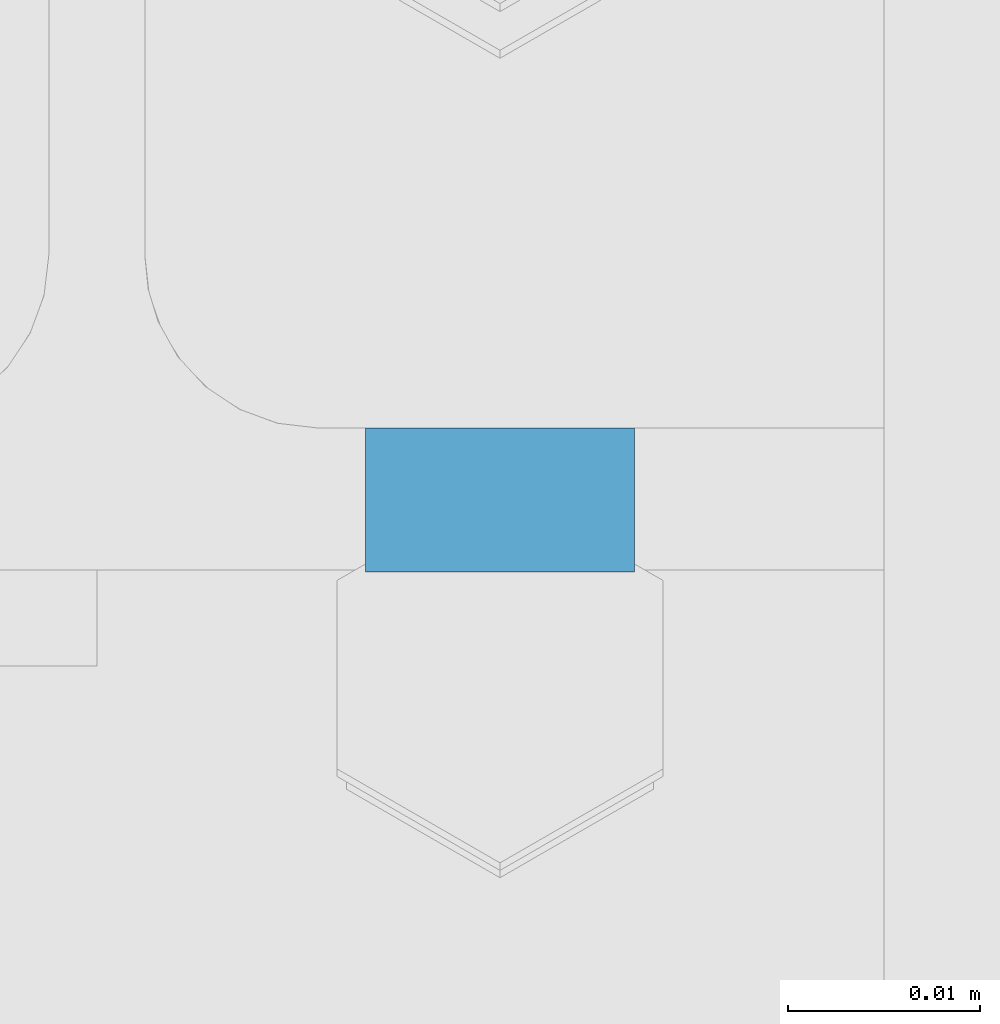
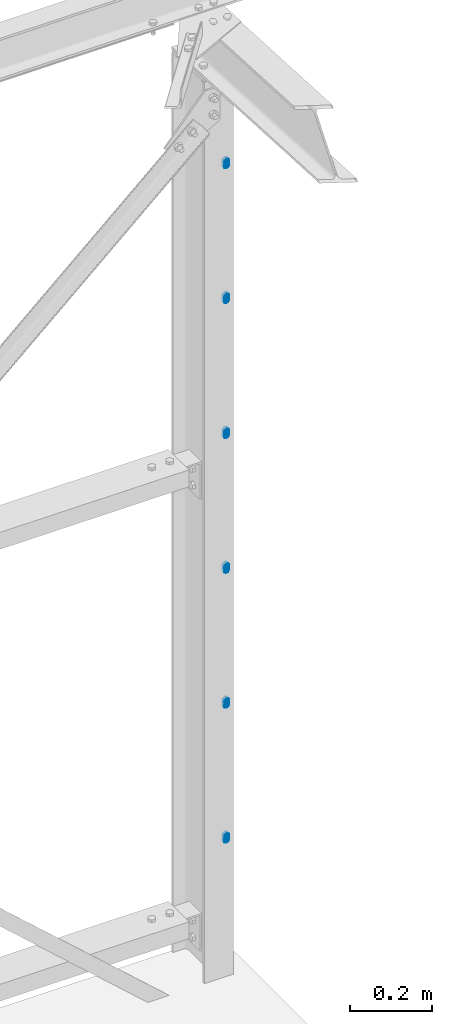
# One storey, part 140 of 362: 1 mechanical fastener.
"""IFC2X3 building model written with IfcOpenShell, lengths in millimetres."""

from ifc_helpers import new_model, si_unit, frame, frame_2d, origin_with_axes, place, context, subcontext, project, spatial, polyline, circle_curve, parameter, trimmed, segment, composite_curve, outline, extrude, source, transform, mapped, material, type_object, element, save


model = new_model("IFC2X3")

# Units and contexts
model_context = context("Model", 3, precision=1e-05, world=origin_with_axes())
body_context = subcontext(model_context, "Body", "Model", "MODEL_VIEW")
ifc_project = project(units=[si_unit("LENGTHUNIT", "METRE", prefix="MILLI"), si_unit("AREAUNIT", "SQUARE_METRE"), si_unit("VOLUMEUNIT", "CUBIC_METRE"), si_unit("MASSUNIT", "GRAM", prefix="KILO"), si_unit("TIMEUNIT", "SECOND"), si_unit("PLANEANGLEUNIT", "RADIAN"), si_unit("SOLIDANGLEUNIT", "STERADIAN"), si_unit("THERMODYNAMICTEMPERATUREUNIT", "DEGREE_CELSIUS"), si_unit("LUMINOUSINTENSITYUNIT", "LUMEN")], contexts=[model_context])

# Site, building, storey
site_placement = place(None, origin_with_axes())
site = spatial("IfcSite", under=ifc_project, at=site_placement, Name="Undefined", CompositionType="ELEMENT")
building_placement = place(site_placement, origin_with_axes())
building = spatial("IfcBuilding", under=site, at=building_placement, Name="Undefined", CompositionType="ELEMENT")
storey_placement = place(building_placement, origin_with_axes())
storey = spatial("IfcBuildingStorey", under=building, at=storey_placement, Name="Undefined", CompositionType="ELEMENT", Elevation=0.0)

# Mechanical fastener
ifc_material = material(Name="#_SB-8.8-ZINGUE")
mechanical_fastener_type = type_object("IfcMechanicalFastenerType", Name="Bolt assembly")
shared_shape = source(origin_with_axes(), body_context, "Body", "SweptSolid", [
    extrude(outline(composite_curve([segment(polyline([(-7.0, 7.0), (7.0, 7.0)]), True, "CONTINUOUS"), segment(trimmed(circle_curve(frame_2d((7.0, 0.0), x_axis=(0.0, 1.0)), 7.0), [parameter(0.0)], [parameter(3.14159265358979)], False, "PARAMETER"), True, "CONTINUOUS"), segment(polyline([(7.0, -7.0), (-7.0, -7.0)]), True, "CONTINUOUS"), segment(trimmed(circle_curve(frame_2d((-7.0, 0.0), x_axis=(0.0, -1.0)), 7.0), [parameter(0.0)], [parameter(3.14159265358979)], False, "PARAMETER"), True, "DISCONTINUOUS")], self_intersect=False)), frame((0.0, -7.40002311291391, 0.0), z_axis=(0.0, 1.0, 0.0), x_axis=(1.0, 0.0, 0.0)), (0.0, 0.0, 1.0), 7.5),
])
mechanical_fastener_placement = place(storey_placement, frame((32024.0000011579, 29160.000066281, 409.999999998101), z_axis=(1.0, 0.0, 0.0), x_axis=(0.0, 0.0, 1.0)))
element("IfcMechanicalFastener", 1, at=mechanical_fastener_placement, inside=storey, type_object=mechanical_fastener_type, material=ifc_material, Name="Bolt assembly", NominalDiameter=12.0, NominalLength=7.40000009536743, context=body_context, shape_type="MappedRepresentation", body=[
    mapped(shared_shape, transform((0.0, 0.0, 0.0))),
    mapped(shared_shape, transform((400.0, 0.0, 0.0))),
    mapped(shared_shape, transform((800.0, 0.0, 0.0))),
    mapped(shared_shape, transform((1200.0, 0.0, 0.0))),
    mapped(shared_shape, transform((1600.0, 0.0, 0.0))),
    mapped(shared_shape, transform((2000.0, 0.0, 0.0))),
])

save(model, "model.ifc")
